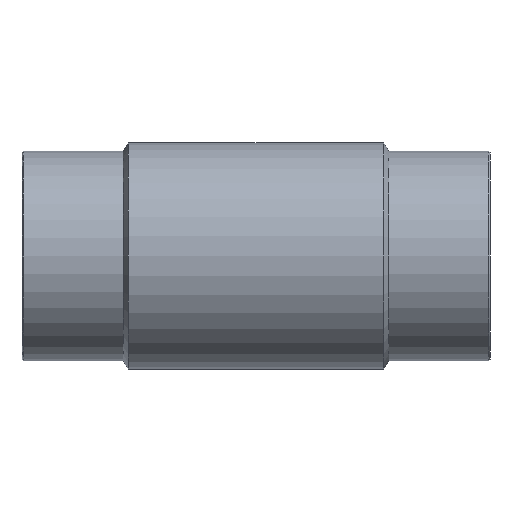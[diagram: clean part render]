
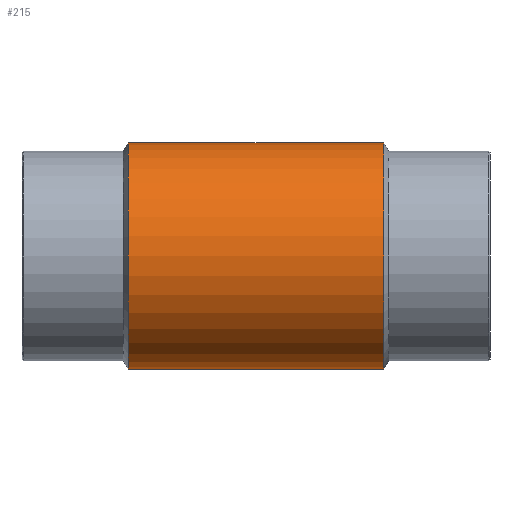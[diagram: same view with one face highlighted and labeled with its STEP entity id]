
A CAD part, front view. The second image highlights one B-rep face of the part: STEP entity #215.
In plain terms, the highlighted cylindrical face has radius 170 mm (diameter 340 mm), a full revolution.
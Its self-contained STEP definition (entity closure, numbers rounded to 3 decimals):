
#33=CIRCLE('',#250,170.);
#35=CIRCLE('',#255,170.);
#52=ORIENTED_EDGE('',*,*,#94,.T.);
#53=ORIENTED_EDGE('',*,*,#95,.T.);
#54=ORIENTED_EDGE('',*,*,#96,.F.);
#55=ORIENTED_EDGE('',*,*,#92,.T.);
#92=EDGE_CURVE('',#113,#113,#33,.T.);
#94=EDGE_CURVE('',#115,#116,#130,.T.);
#95=EDGE_CURVE('',#116,#115,#131,.F.);
#96=EDGE_CURVE('',#117,#117,#35,.T.);
#113=VERTEX_POINT('',#369);
#115=VERTEX_POINT('',#374);
#116=VERTEX_POINT('',#375);
#117=VERTEX_POINT('',#378);
#130=ELLIPSE('',#253,243.977,170.);
#131=ELLIPSE('',#254,243.977,170.);
#139=EDGE_LOOP('',(#52,#53));
#140=EDGE_LOOP('',(#54));
#141=EDGE_LOOP('',(#55));
#175=FACE_BOUND('',#139,.T.);
#176=FACE_BOUND('',#140,.T.);
#177=FACE_BOUND('',#141,.T.);
#207=CYLINDRICAL_SURFACE('',#252,170.);
#215=ADVANCED_FACE('',(#175,#176,#177),#207,.T.);
#250=AXIS2_PLACEMENT_3D('',#368,#295,#296);
#252=AXIS2_PLACEMENT_3D('',#372,#299,#300);
#253=AXIS2_PLACEMENT_3D('',#373,#301,#302);
#254=AXIS2_PLACEMENT_3D('',#376,#303,#304);
#255=AXIS2_PLACEMENT_3D('',#377,#305,#306);
#295=DIRECTION('',(-1.,0.,0.));
#296=DIRECTION('',(0.,0.,1.));
#299=DIRECTION('',(-1.,0.,0.));
#300=DIRECTION('',(0.,0.,1.));
#301=DIRECTION('',(0.697,-0.717,0.));
#302=DIRECTION('',(-0.717,-0.697,0.));
#303=DIRECTION('',(0.697,0.717,0.));
#304=DIRECTION('',(-0.717,0.697,0.));
#305=DIRECTION('',(-1.,0.,0.));
#306=DIRECTION('',(0.,0.,1.));
#368=CARTESIAN_POINT('',(192.5,0.,0.));
#369=CARTESIAN_POINT('',(192.5,0.,170.));
#372=CARTESIAN_POINT('',(-60.,0.,0.));
#373=CARTESIAN_POINT('',(0.,0.,0.));
#374=CARTESIAN_POINT('',(0.,0.,-170.));
#375=CARTESIAN_POINT('',(0.,0.,170.));
#376=CARTESIAN_POINT('',(0.,0.,0.));
#377=CARTESIAN_POINT('',(-192.5,0.,0.));
#378=CARTESIAN_POINT('',(-192.5,0.,170.));
